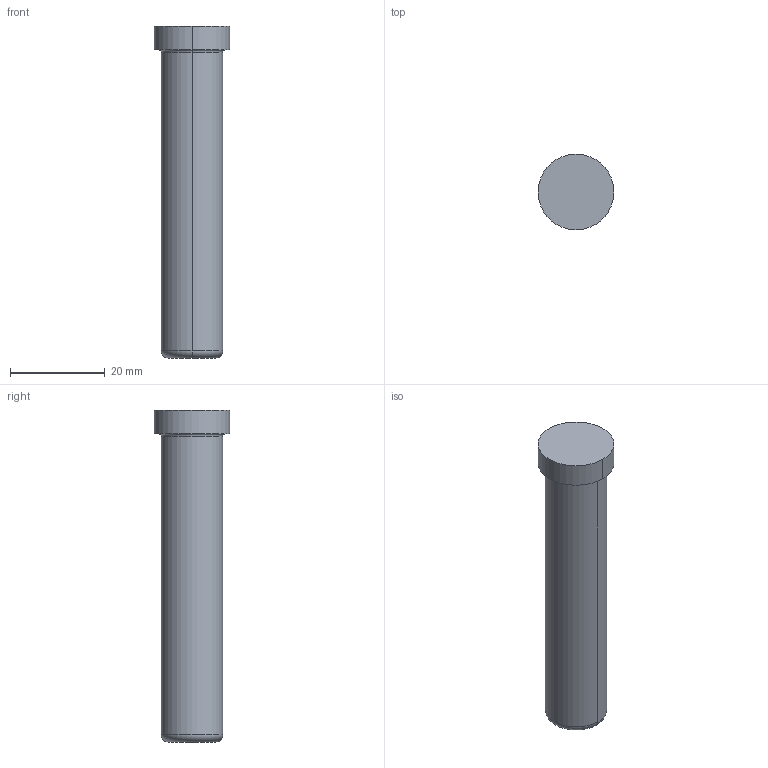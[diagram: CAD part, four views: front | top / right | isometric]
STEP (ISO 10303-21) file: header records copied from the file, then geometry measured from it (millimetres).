
FILE_DESCRIPTION(/* description */ (''),/* implementation_level */ '2;1');
FILE_NAME(/* name */ '3d_sgph13-70_00269_r00.stp',/* time_stamp */ '2011-01-10T14:11:07+09:00',/* author */ ('MISUMI'),/* organization */ (''),/* preprocessor_version */ 'ST-DEVELOPER v11',/* originating_system */ 'UGS - NX 5.0',/* authorisation */ '');
FILE_SCHEMA (('CONFIG_CONTROL_DESIGN'));
Length unit declared in the file: millimetre
Products named in the file (1): 3d_sgph13-70_00269_r00
Bounding box: 16 x 16 x 70 mm (x, y, z)
Volume: 9616.4 mm3; surface area: 3272.1 mm2
Topology: 1 solids, 1 shells, 11 faces, 20 edges, 12 vertices
Faces by surface type: cylinder 4, torus 4, plane 3
Entity records: 364 total; most frequent: DIRECTION 60, CARTESIAN_POINT 44, ORIENTED_EDGE 40, AXIS2_PLACEMENT_3D 28, EDGE_CURVE 20, CIRCLE 16, EDGE_LOOP 12, VERTEX_POINT 12
